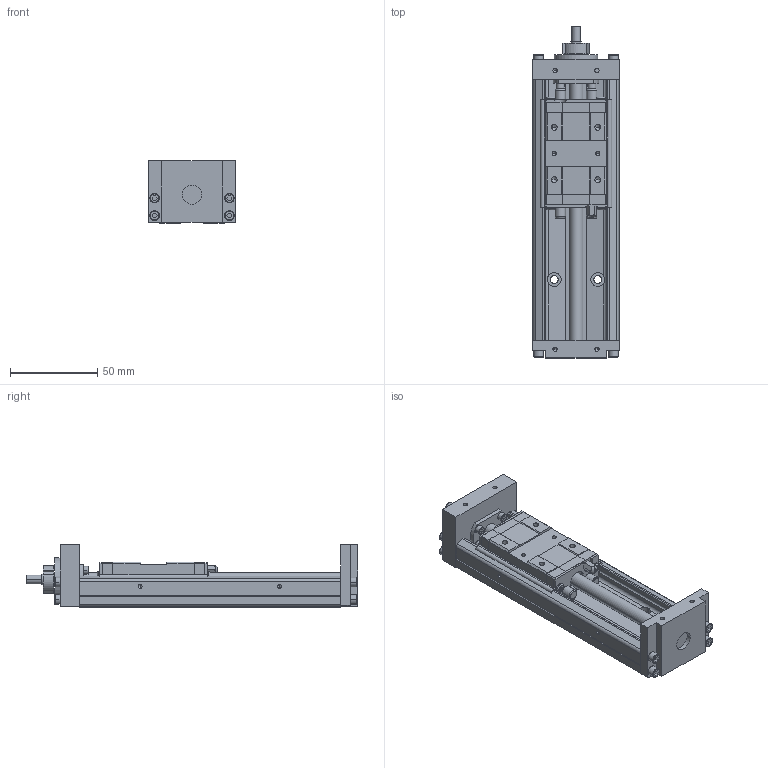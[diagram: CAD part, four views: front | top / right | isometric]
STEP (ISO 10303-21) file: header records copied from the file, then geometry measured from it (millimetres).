
FILE_DESCRIPTION(('no description'),'unknown implementation level');
FILE_NAME('KK5002P150A1H0000_FILE_11.stp',' ',('HIWIN GmbH'),('CADClick - KiM GmbH - www.kimweb.de'),'unknown preprocess','ACIS','unknown authorization');
FILE_SCHEMA(('automotive_design'));
Length unit declared in the file: millimetre
Products named in the file (2): KK50_FILE; KK5002P150A1H0000_FILE
Bounding box: 50 x 190.5 x 36 mm (x, y, z)
Volume: 151985.7 mm3; surface area: 50287.4 mm2
Topology: 2 solids, 10 shells, 622 faces, 1554 edges, 983 vertices
Faces by surface type: plane 371, cylinder 167, cone 42, torus 42
Entity records: 36340 total; most frequent: CARTESIAN_POINT 3631, DIRECTION 3238, STYLED_ITEM 3135, PRESENTATION_STYLE_ASSIGNMENT 3135, COLOUR_RGB 3135, ORIENTED_EDGE 3056, EDGE_CURVE 1528, CURVE_STYLE 1528
